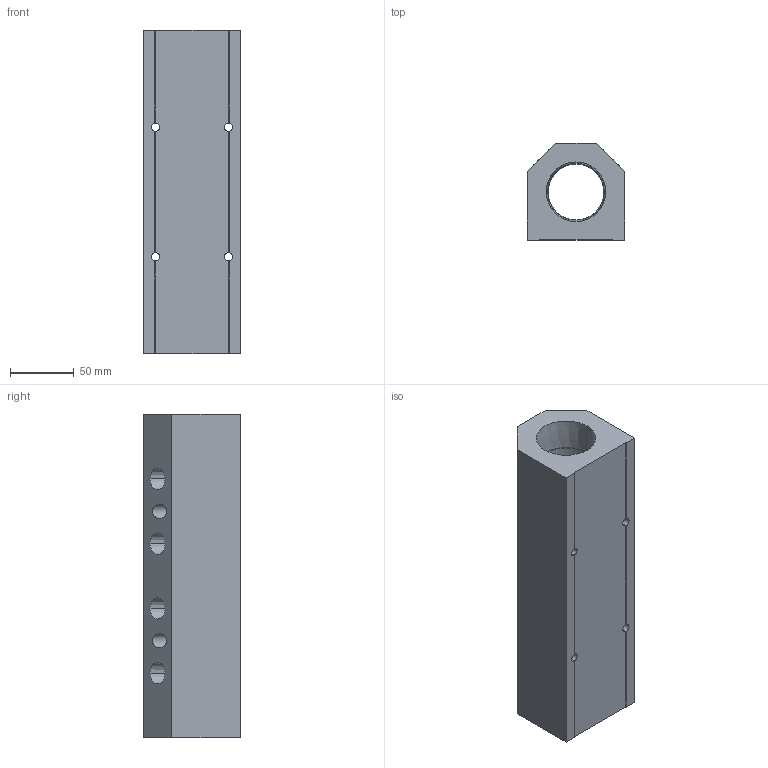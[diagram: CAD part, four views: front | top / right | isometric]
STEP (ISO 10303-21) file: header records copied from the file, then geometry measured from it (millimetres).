
FILE_DESCRIPTION (( 'STEP AP214' ), '1' );
FILE_NAME ('ALM4BD-N6N24-254B.step', '2022-02-07T09:08:18', ( '' ), ( '' ), 'SwSTEP 2.0', 'SolidWorks 2020', '' );
FILE_SCHEMA (( 'AUTOMOTIVE_DESIGN' ));
Length unit declared in the file: millimetre
Products named in the file (1): ALM4BD-N6N24-254B
Bounding box: 76.2 x 76.2 x 254 mm (x, y, z)
Volume: 911767.4 mm3; surface area: 122614.2 mm2
Topology: 1 solids, 1 shells, 325 faces, 856 edges, 568 vertices
Faces by surface type: plane 229, bspline 58, cone 20, cylinder 18
Entity records: 17406 total; most frequent: CARTESIAN_POINT 6684, ORIENTED_EDGE 1712, DIRECTION 1296, EDGE_CURVE 856, VECTOR 656, LINE 656, VERTEX_POINT 568, EDGE_LOOP 386
